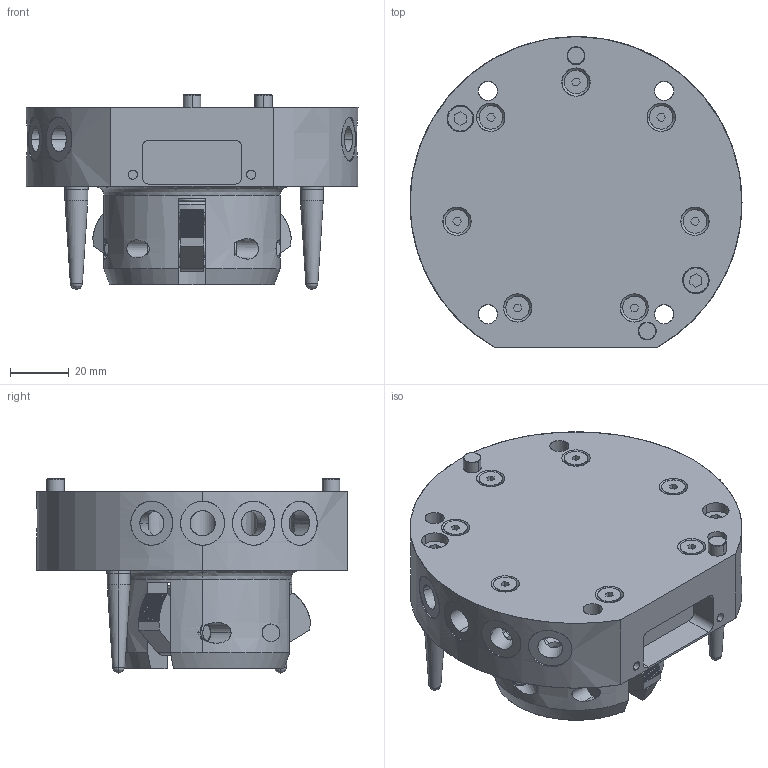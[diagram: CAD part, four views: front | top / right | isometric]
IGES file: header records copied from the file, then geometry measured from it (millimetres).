
Start section: Comment
Global section: file name: 99-0063A.igs; native system: Parasolid(12.0); preprocessor: Pariges 4.4; author: Author; organization: Title; date: 20010709.130135; units: millimetre
Bounding box: 113 x 105.77 x 66.22 mm (x, y, z)
Surface area: 83365.1 mm2 (no closed solid volume)
Topology: 0 solids, 0 shells, 829 faces, 10695 edges, 10679 vertices
Faces by surface type: revolution 477, extrusion 352
